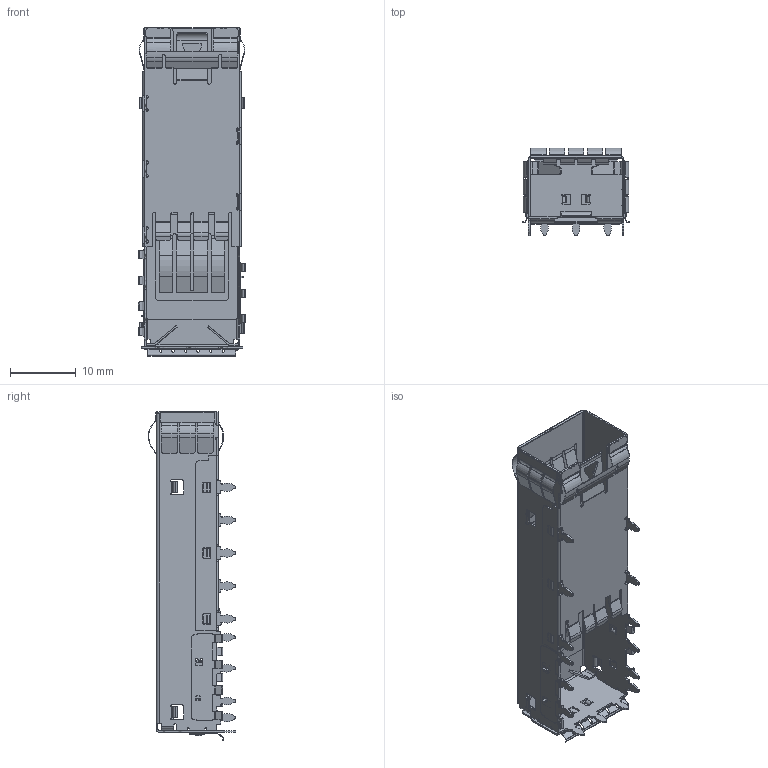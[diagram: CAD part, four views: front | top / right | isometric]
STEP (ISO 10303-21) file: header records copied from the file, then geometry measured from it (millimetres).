
FILE_DESCRIPTION (( 'STEP AP203' ), '1' );
FILE_NAME ('10730211W021-諦誧3D.STEP', '2022-06-24T06:03:18', ( '' ), ( '' ), 'SwSTEP 2.0', 'SolidWorks 2016', '' );
FILE_SCHEMA (( 'CONFIG_CONTROL_DESIGN' ));
Length unit declared in the file: millimetre
Products named in the file (2): 零件23^10730211W021无孔 无器 无波 带裙边; 10730211W021-諦誧3D
Assembly tree (1 placements, depth 2):
  10730211W021-諦誧3D
    零件23^10730211W021无孔 无器 无波 带裙边
Bounding box: 16.28 x 13.28 x 49.97 mm (x, y, z)
Volume: 636.7 mm3; surface area: 6215 mm2
Topology: 2 solids, 2 shells, 1720 faces, 5204 edges, 3428 vertices
Faces by surface type: cylinder 885, plane 819, bspline 16
Entity records: 59766 total; most frequent: CARTESIAN_POINT 11369, ORIENTED_EDGE 10408, DIRECTION 10230, EDGE_CURVE 5204, AXIS2_PLACEMENT_3D 3493, VERTEX_POINT 3428, VECTOR 3244, LINE 3244
